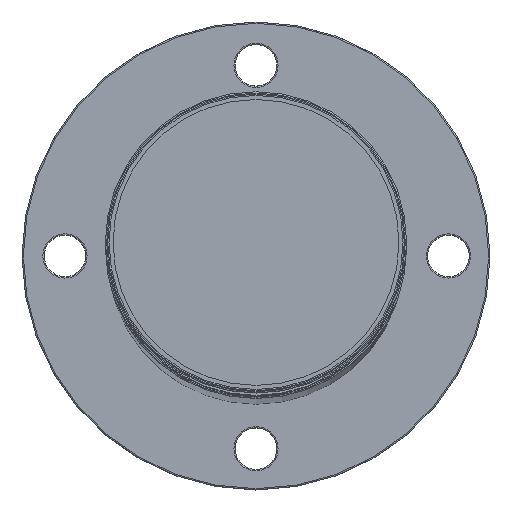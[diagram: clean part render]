
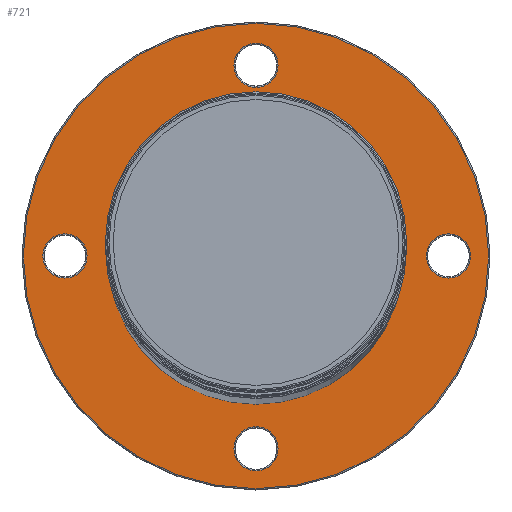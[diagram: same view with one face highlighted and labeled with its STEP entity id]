
A CAD part, top view. The second image highlights one B-rep face of the part: STEP entity #721.
In plain terms, the highlighted planar face has unit normal (0, 0, 1).
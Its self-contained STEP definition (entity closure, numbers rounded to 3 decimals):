
#25=FACE_BOUND('',#234,.T.);
#26=FACE_BOUND('',#235,.T.);
#27=FACE_BOUND('',#236,.T.);
#28=FACE_BOUND('',#237,.T.);
#29=FACE_BOUND('',#238,.T.);
#30=FACE_BOUND('',#239,.T.);
#45=PLANE('',#808);
#64=LINE('',#1190,#112);
#65=LINE('',#1192,#113);
#66=LINE('',#1194,#114);
#67=LINE('',#1198,#115);
#68=LINE('',#1200,#116);
#69=LINE('',#1202,#117);
#70=LINE('',#1206,#118);
#71=LINE('',#1208,#119);
#72=LINE('',#1209,#120);
#73=LINE('',#1214,#121);
#74=LINE('',#1215,#122);
#112=VECTOR('',#968,10.);
#113=VECTOR('',#969,10.);
#114=VECTOR('',#970,10.);
#115=VECTOR('',#973,10.);
#116=VECTOR('',#974,10.);
#117=VECTOR('',#975,10.);
#118=VECTOR('',#978,10.);
#119=VECTOR('',#979,10.);
#120=VECTOR('',#980,10.);
#121=VECTOR('',#983,10.);
#122=VECTOR('',#984,10.);
#186=FACE_OUTER_BOUND('',#233,.T.);
#233=EDGE_LOOP('',(#550));
#234=EDGE_LOOP('',(#551));
#235=EDGE_LOOP('',(#552));
#236=EDGE_LOOP('',(#553,#554,#555,#556,#557,#558,#559,#560,#561,#562,#563,
#564));
#237=EDGE_LOOP('',(#565,#566,#567));
#238=EDGE_LOOP('',(#568));
#239=EDGE_LOOP('',(#569));
#292=CIRCLE('',#804,8.5);
#296=CIRCLE('',#809,89.5);
#297=CIRCLE('',#810,8.5);
#298=CIRCLE('',#811,8.5);
#299=CIRCLE('',#812,52.183);
#300=CIRCLE('',#813,52.183);
#301=CIRCLE('',#814,52.183);
#302=CIRCLE('',#815,55.);
#303=CIRCLE('',#816,8.5);
#341=VERTEX_POINT('',#1172);
#344=VERTEX_POINT('',#1180);
#345=VERTEX_POINT('',#1182);
#346=VERTEX_POINT('',#1184);
#347=VERTEX_POINT('',#1186);
#348=VERTEX_POINT('',#1187);
#349=VERTEX_POINT('',#1189);
#350=VERTEX_POINT('',#1191);
#351=VERTEX_POINT('',#1193);
#352=VERTEX_POINT('',#1195);
#353=VERTEX_POINT('',#1197);
#354=VERTEX_POINT('',#1199);
#355=VERTEX_POINT('',#1201);
#356=VERTEX_POINT('',#1203);
#357=VERTEX_POINT('',#1205);
#358=VERTEX_POINT('',#1207);
#359=VERTEX_POINT('',#1210);
#360=VERTEX_POINT('',#1211);
#361=VERTEX_POINT('',#1213);
#362=VERTEX_POINT('',#1216);
#417=EDGE_CURVE('',#341,#341,#292,.T.);
#421=EDGE_CURVE('',#344,#344,#296,.T.);
#422=EDGE_CURVE('',#345,#345,#297,.T.);
#423=EDGE_CURVE('',#346,#346,#298,.T.);
#424=EDGE_CURVE('',#347,#348,#299,.T.);
#425=EDGE_CURVE('',#348,#349,#64,.T.);
#426=EDGE_CURVE('',#349,#350,#65,.T.);
#427=EDGE_CURVE('',#350,#351,#66,.T.);
#428=EDGE_CURVE('',#351,#352,#300,.T.);
#429=EDGE_CURVE('',#352,#353,#67,.T.);
#430=EDGE_CURVE('',#353,#354,#68,.T.);
#431=EDGE_CURVE('',#354,#355,#69,.T.);
#432=EDGE_CURVE('',#355,#356,#301,.T.);
#433=EDGE_CURVE('',#356,#357,#70,.T.);
#434=EDGE_CURVE('',#357,#358,#71,.T.);
#435=EDGE_CURVE('',#358,#347,#72,.T.);
#436=EDGE_CURVE('',#359,#360,#302,.T.);
#437=EDGE_CURVE('',#360,#361,#73,.T.);
#438=EDGE_CURVE('',#361,#359,#74,.T.);
#439=EDGE_CURVE('',#362,#362,#303,.T.);
#550=ORIENTED_EDGE('',*,*,#421,.F.);
#551=ORIENTED_EDGE('',*,*,#422,.F.);
#552=ORIENTED_EDGE('',*,*,#423,.F.);
#553=ORIENTED_EDGE('',*,*,#424,.T.);
#554=ORIENTED_EDGE('',*,*,#425,.T.);
#555=ORIENTED_EDGE('',*,*,#426,.T.);
#556=ORIENTED_EDGE('',*,*,#427,.T.);
#557=ORIENTED_EDGE('',*,*,#428,.T.);
#558=ORIENTED_EDGE('',*,*,#429,.T.);
#559=ORIENTED_EDGE('',*,*,#430,.T.);
#560=ORIENTED_EDGE('',*,*,#431,.T.);
#561=ORIENTED_EDGE('',*,*,#432,.T.);
#562=ORIENTED_EDGE('',*,*,#433,.T.);
#563=ORIENTED_EDGE('',*,*,#434,.T.);
#564=ORIENTED_EDGE('',*,*,#435,.T.);
#565=ORIENTED_EDGE('',*,*,#436,.T.);
#566=ORIENTED_EDGE('',*,*,#437,.T.);
#567=ORIENTED_EDGE('',*,*,#438,.T.);
#568=ORIENTED_EDGE('',*,*,#439,.F.);
#569=ORIENTED_EDGE('',*,*,#417,.F.);
#721=ADVANCED_FACE('',(#186,#25,#26,#27,#28,#29,#30),#45,.T.);
#804=AXIS2_PLACEMENT_3D('',#1173,#950,#951);
#808=AXIS2_PLACEMENT_3D('',#1179,#958,#959);
#809=AXIS2_PLACEMENT_3D('',#1181,#960,#961);
#810=AXIS2_PLACEMENT_3D('',#1183,#962,#963);
#811=AXIS2_PLACEMENT_3D('',#1185,#964,#965);
#812=AXIS2_PLACEMENT_3D('',#1188,#966,#967);
#813=AXIS2_PLACEMENT_3D('',#1196,#971,#972);
#814=AXIS2_PLACEMENT_3D('',#1204,#976,#977);
#815=AXIS2_PLACEMENT_3D('',#1212,#981,#982);
#816=AXIS2_PLACEMENT_3D('',#1217,#985,#986);
#950=DIRECTION('center_axis',(0.,0.,1.));
#951=DIRECTION('ref_axis',(1.,0.,0.));
#958=DIRECTION('center_axis',(0.,0.,1.));
#959=DIRECTION('ref_axis',(1.,0.,0.));
#960=DIRECTION('center_axis',(0.,0.,-1.));
#961=DIRECTION('ref_axis',(1.,0.,0.));
#962=DIRECTION('center_axis',(0.,0.,1.));
#963=DIRECTION('ref_axis',(1.,0.,0.));
#964=DIRECTION('center_axis',(0.,0.,1.));
#965=DIRECTION('ref_axis',(1.,0.,0.));
#966=DIRECTION('center_axis',(0.,0.,-1.));
#967=DIRECTION('ref_axis',(0.637,-0.771,0.));
#968=DIRECTION('',(-0.5,0.866,0.));
#969=DIRECTION('',(-0.866,-0.5,0.));
#970=DIRECTION('',(0.5,-0.866,0.));
#971=DIRECTION('center_axis',(0.,0.,-1.));
#972=DIRECTION('ref_axis',(-0.986,-0.167,0.));
#973=DIRECTION('',(1.,0.,0.));
#974=DIRECTION('',(0.,1.,0.));
#975=DIRECTION('',(-1.,0.,0.));
#976=DIRECTION('center_axis',(0.,0.,-1.));
#977=DIRECTION('ref_axis',(0.349,0.937,0.));
#978=DIRECTION('',(-0.5,-0.866,0.));
#979=DIRECTION('',(0.866,-0.5,0.));
#980=DIRECTION('',(0.5,0.866,0.));
#981=DIRECTION('center_axis',(0.,0.,1.));
#982=DIRECTION('ref_axis',(1.,0.,0.));
#983=DIRECTION('',(-1.,0.,0.));
#984=DIRECTION('',(0.,1.,0.));
#985=DIRECTION('center_axis',(0.,0.,1.));
#986=DIRECTION('ref_axis',(1.,0.,0.));
#1172=CARTESIAN_POINT('',(8.5,73.348,10.));
#1173=CARTESIAN_POINT('Origin',(0.,73.348,10.));
#1179=CARTESIAN_POINT('Origin',(0.,0.,10.));
#1180=CARTESIAN_POINT('',(-89.5,0.,10.));
#1181=CARTESIAN_POINT('Origin',(0.,0.,10.));
#1182=CARTESIAN_POINT('',(82.518,0.,10.));
#1183=CARTESIAN_POINT('Origin',(74.018,0.,10.));
#1184=CARTESIAN_POINT('',(-64.985,0.,10.));
#1185=CARTESIAN_POINT('Origin',(-73.485,0.,10.));
#1186=CARTESIAN_POINT('',(32.372,40.928,10.));
#1187=CARTESIAN_POINT('',(33.257,-40.212,10.));
#1188=CARTESIAN_POINT('Origin',(0.,0.,10.));
#1189=CARTESIAN_POINT('',(28.347,-31.707,10.));
#1190=CARTESIAN_POINT('',(28.347,-31.707,10.));
#1191=CARTESIAN_POINT('',(14.259,-39.84,10.));
#1192=CARTESIAN_POINT('',(14.259,-39.84,10.));
#1193=CARTESIAN_POINT('',(19.258,-48.499,10.));
#1194=CARTESIAN_POINT('',(19.258,-48.499,10.));
#1195=CARTESIAN_POINT('',(-51.453,-8.696,10.));
#1196=CARTESIAN_POINT('Origin',(0.,0.,10.));
#1197=CARTESIAN_POINT('',(-41.633,-8.696,10.));
#1198=CARTESIAN_POINT('',(-41.633,-8.696,10.));
#1199=CARTESIAN_POINT('',(-41.633,7.571,10.));
#1200=CARTESIAN_POINT('',(-41.633,7.571,10.));
#1201=CARTESIAN_POINT('',(-51.631,7.571,10.));
#1202=CARTESIAN_POINT('',(-51.631,7.571,10.));
#1203=CARTESIAN_POINT('',(18.196,48.907,10.));
#1204=CARTESIAN_POINT('Origin',(0.,0.,10.));
#1205=CARTESIAN_POINT('',(13.286,40.403,10.));
#1206=CARTESIAN_POINT('',(13.286,40.403,10.));
#1207=CARTESIAN_POINT('',(27.373,32.269,10.));
#1208=CARTESIAN_POINT('',(27.373,32.269,10.));
#1209=CARTESIAN_POINT('',(32.372,40.928,10.));
#1210=CARTESIAN_POINT('',(-54.476,-7.571,10.));
#1211=CARTESIAN_POINT('',(-54.308,-8.696,10.));
#1212=CARTESIAN_POINT('Origin',(0.,0.,10.));
#1213=CARTESIAN_POINT('',(-54.476,-8.696,10.));
#1214=CARTESIAN_POINT('',(-54.308,-8.696,10.));
#1215=CARTESIAN_POINT('',(-54.476,-8.696,10.));
#1216=CARTESIAN_POINT('',(8.5,-74.155,10.));
#1217=CARTESIAN_POINT('Origin',(0.,-74.155,10.));
